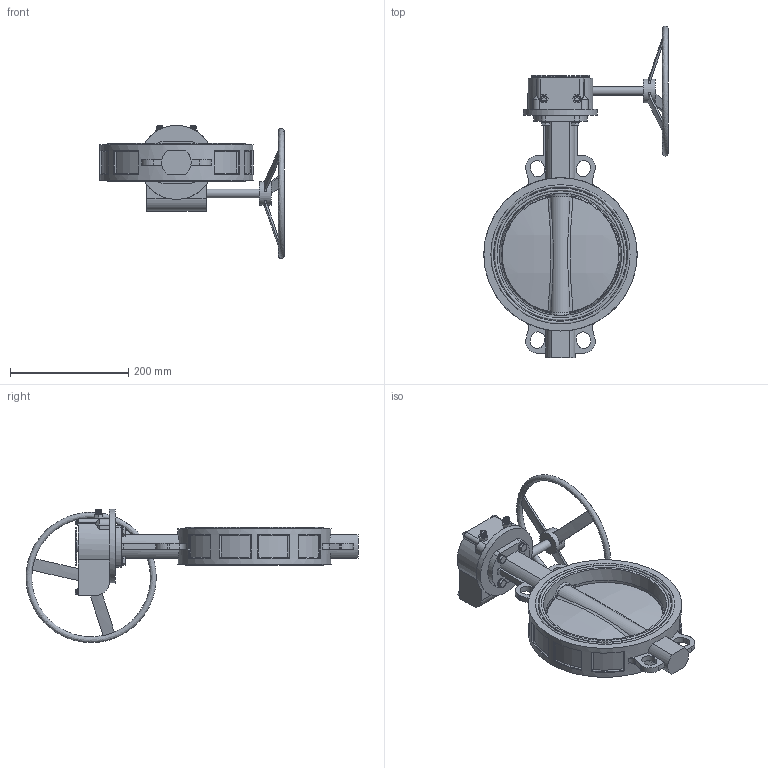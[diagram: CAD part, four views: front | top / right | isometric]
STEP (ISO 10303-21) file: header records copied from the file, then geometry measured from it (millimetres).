
FILE_DESCRIPTION (( 'STEP AP214' ), '1' );
FILE_NAME ('恦謫 勤標評概 Fig.3230-200.STEP', '2026-03-23T07:16:55', ( '' ), ( '' ), 'SwSTEP 2.0', 'SolidWorks 2024', '' );
FILE_SCHEMA (( 'AUTOMOTIVE_DESIGN' ));
Length unit declared in the file: millimetre
Products named in the file (1): 涡轮 对夹蝶阀 Fig.3230-200
Bounding box: 311.5 x 560.97 x 225 mm (x, y, z)
Surface area: 350548.4 mm2 (no closed solid volume)
Topology: 0 solids, 1 shells, 671 faces, 1748 edges, 1143 vertices
Faces by surface type: plane 342, bspline 157, cylinder 126, cone 46
Full cylindrical faces by diameter (mm): 6 x4, 8 x4, 8.68 x4, 10 x10, 13.68 x4, 15 x1, 20 x1, 40 x1, 64 x1, 83 x1, 125 x1, 259 x1
Entity records: 50593 total; most frequent: CARTESIAN_POINT 28418, ORIENTED_EDGE 3350, DIRECTION 2457, EDGE_CURVE 1686, VERTEX_POINT 1125, VECTOR 849, LINE 849, EDGE_LOOP 805
